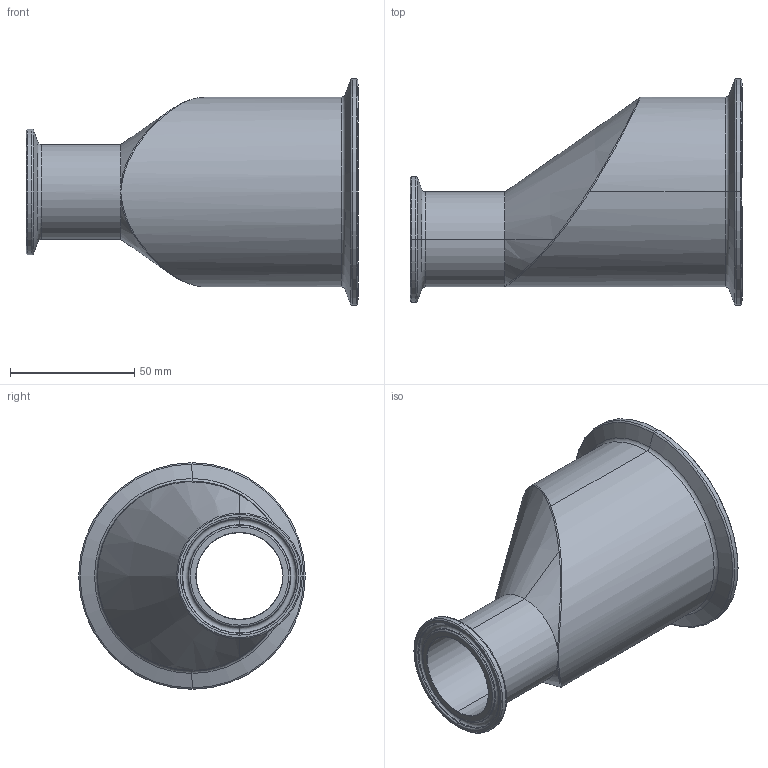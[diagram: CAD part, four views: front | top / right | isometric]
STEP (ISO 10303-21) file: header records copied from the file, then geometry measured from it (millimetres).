
FILE_DESCRIPTION (( 'STEP AP214' ), '1' );
FILE_NAME ('TEG32SCC6L3.0x1.5-...STEP', '2016-06-01T13:08:20', ( 'eran' ), ( '' ), 'SwSTEP 2.0', 'SolidWorks 2016', '' );
FILE_SCHEMA (( 'AUTOMOTIVE_DESIGN' ));
Length unit declared in the file: millimetre
Products named in the file (1): TEG32SCC6L3.0x1.5-..
Bounding box: 133.35 x 91 x 91 mm (x, y, z)
Volume: 173917.9 mm3; surface area: 51863.1 mm2
Topology: 1 solids, 1 shells, 74 faces, 158 edges, 86 vertices
Faces by surface type: cone 27, torus 25, cylinder 15, plane 4, bspline 3
Entity records: 2861 total; most frequent: CARTESIAN_POINT 1229, DIRECTION 376, ORIENTED_EDGE 312, AXIS2_PLACEMENT_3D 169, EDGE_CURVE 156, CIRCLE 97, VERTEX_POINT 86, EDGE_LOOP 78
